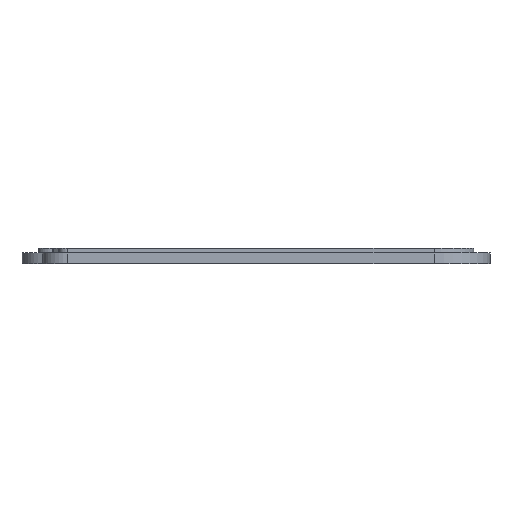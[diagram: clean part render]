
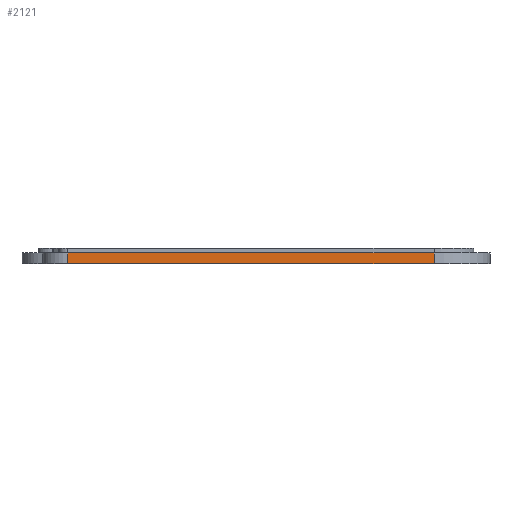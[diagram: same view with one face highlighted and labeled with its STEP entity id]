
A CAD part, left-side view. The second image highlights one B-rep face of the part: STEP entity #2121.
In plain terms, the highlighted planar face has unit normal (-1, 0, 0).
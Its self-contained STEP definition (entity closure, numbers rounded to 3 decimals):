
#44 = CYLINDRICAL_SURFACE('',#45,5.);
#45 = AXIS2_PLACEMENT_3D('',#46,#47,#48);
#46 = CARTESIAN_POINT('',(0.5,52.,0.));
#47 = DIRECTION('',(-0.,-0.,-1.));
#48 = DIRECTION('',(1.,0.,0.));
#72 = PLANE('',#73);
#73 = AXIS2_PLACEMENT_3D('',#74,#75,#76);
#74 = CARTESIAN_POINT('',(100.,14.825,2.1));
#75 = DIRECTION('',(0.,0.,1.));
#76 = DIRECTION('',(1.,0.,0.));
#126 = PLANE('',#127);
#127 = AXIS2_PLACEMENT_3D('',#128,#129,#130);
#128 = CARTESIAN_POINT('',(100.,14.825,0.));
#129 = DIRECTION('',(0.,0.,1.));
#130 = DIRECTION('',(1.,0.,0.));
#143 = VERTEX_POINT('',#144);
#144 = CARTESIAN_POINT('',(-4.5,52.,2.1));
#166 = EDGE_CURVE('',#167,#143,#169,.T.);
#167 = VERTEX_POINT('',#168);
#168 = CARTESIAN_POINT('',(-4.5,52.,0.));
#169 = SURFACE_CURVE('',#170,(#174,#181),.PCURVE_S1.);
#170 = LINE('',#171,#172);
#171 = CARTESIAN_POINT('',(-4.5,52.,0.));
#172 = VECTOR('',#173,1.);
#173 = DIRECTION('',(0.,0.,1.));
#174 = PCURVE('',#44,#175);
#175 = DEFINITIONAL_REPRESENTATION('',(#176),#180);
#176 = LINE('',#177,#178);
#177 = CARTESIAN_POINT('',(-3.142,0.));
#178 = VECTOR('',#179,1.);
#179 = DIRECTION('',(-0.,-1.));
#180 = ( GEOMETRIC_REPRESENTATION_CONTEXT(2) 
PARAMETRIC_REPRESENTATION_CONTEXT() REPRESENTATION_CONTEXT('2D SPACE',''
  ) );
#181 = PCURVE('',#182,#187);
#182 = PLANE('',#183);
#183 = AXIS2_PLACEMENT_3D('',#184,#185,#186);
#184 = CARTESIAN_POINT('',(-4.5,52.,0.));
#185 = DIRECTION('',(1.,0.,0.));
#186 = DIRECTION('',(0.,-1.,0.));
#187 = DEFINITIONAL_REPRESENTATION('',(#188),#192);
#188 = LINE('',#189,#190);
#189 = CARTESIAN_POINT('',(0.,0.));
#190 = VECTOR('',#191,1.);
#191 = DIRECTION('',(0.,-1.));
#192 = ( GEOMETRIC_REPRESENTATION_CONTEXT(2) 
PARAMETRIC_REPRESENTATION_CONTEXT() REPRESENTATION_CONTEXT('2D SPACE',''
  ) );
#299 = EDGE_CURVE('',#167,#300,#302,.T.);
#300 = VERTEX_POINT('',#301);
#301 = CARTESIAN_POINT('',(-4.5,-20.,0.));
#302 = SURFACE_CURVE('',#303,(#307,#314),.PCURVE_S1.);
#303 = LINE('',#304,#305);
#304 = CARTESIAN_POINT('',(-4.5,52.,0.));
#305 = VECTOR('',#306,1.);
#306 = DIRECTION('',(0.,-1.,0.));
#307 = PCURVE('',#126,#308);
#308 = DEFINITIONAL_REPRESENTATION('',(#309),#313);
#309 = LINE('',#310,#311);
#310 = CARTESIAN_POINT('',(-104.5,37.175));
#311 = VECTOR('',#312,1.);
#312 = DIRECTION('',(0.,-1.));
#313 = ( GEOMETRIC_REPRESENTATION_CONTEXT(2) 
PARAMETRIC_REPRESENTATION_CONTEXT() REPRESENTATION_CONTEXT('2D SPACE',''
  ) );
#314 = PCURVE('',#182,#315);
#315 = DEFINITIONAL_REPRESENTATION('',(#316),#320);
#316 = LINE('',#317,#318);
#317 = CARTESIAN_POINT('',(0.,0.));
#318 = VECTOR('',#319,1.);
#319 = DIRECTION('',(1.,0.));
#320 = ( GEOMETRIC_REPRESENTATION_CONTEXT(2) 
PARAMETRIC_REPRESENTATION_CONTEXT() REPRESENTATION_CONTEXT('2D SPACE',''
  ) );
#339 = CYLINDRICAL_SURFACE('',#340,11.);
#340 = AXIS2_PLACEMENT_3D('',#341,#342,#343);
#341 = CARTESIAN_POINT('',(6.5,-20.,0.));
#342 = DIRECTION('',(-0.,-0.,-1.));
#343 = DIRECTION('',(1.,0.,0.));
#1034 = EDGE_CURVE('',#143,#1035,#1037,.T.);
#1035 = VERTEX_POINT('',#1036);
#1036 = CARTESIAN_POINT('',(-4.5,-20.,2.1));
#1037 = SURFACE_CURVE('',#1038,(#1042,#1049),.PCURVE_S1.);
#1038 = LINE('',#1039,#1040);
#1039 = CARTESIAN_POINT('',(-4.5,52.,2.1));
#1040 = VECTOR('',#1041,1.);
#1041 = DIRECTION('',(0.,-1.,0.));
#1042 = PCURVE('',#72,#1043);
#1043 = DEFINITIONAL_REPRESENTATION('',(#1044),#1048);
#1044 = LINE('',#1045,#1046);
#1045 = CARTESIAN_POINT('',(-104.5,37.175));
#1046 = VECTOR('',#1047,1.);
#1047 = DIRECTION('',(0.,-1.));
#1048 = ( GEOMETRIC_REPRESENTATION_CONTEXT(2) 
PARAMETRIC_REPRESENTATION_CONTEXT() REPRESENTATION_CONTEXT('2D SPACE',''
  ) );
#1049 = PCURVE('',#182,#1050);
#1050 = DEFINITIONAL_REPRESENTATION('',(#1051),#1055);
#1051 = LINE('',#1052,#1053);
#1052 = CARTESIAN_POINT('',(0.,-2.1));
#1053 = VECTOR('',#1054,1.);
#1054 = DIRECTION('',(1.,0.));
#1055 = ( GEOMETRIC_REPRESENTATION_CONTEXT(2) 
PARAMETRIC_REPRESENTATION_CONTEXT() REPRESENTATION_CONTEXT('2D SPACE',''
  ) );
#2121 = ADVANCED_FACE('',(#2122),#182,.F.);
#2122 = FACE_BOUND('',#2123,.F.);
#2123 = EDGE_LOOP('',(#2124,#2125,#2126,#2147));
#2124 = ORIENTED_EDGE('',*,*,#166,.T.);
#2125 = ORIENTED_EDGE('',*,*,#1034,.T.);
#2126 = ORIENTED_EDGE('',*,*,#2127,.F.);
#2127 = EDGE_CURVE('',#300,#1035,#2128,.T.);
#2128 = SURFACE_CURVE('',#2129,(#2133,#2140),.PCURVE_S1.);
#2129 = LINE('',#2130,#2131);
#2130 = CARTESIAN_POINT('',(-4.5,-20.,0.));
#2131 = VECTOR('',#2132,1.);
#2132 = DIRECTION('',(0.,0.,1.));
#2133 = PCURVE('',#182,#2134);
#2134 = DEFINITIONAL_REPRESENTATION('',(#2135),#2139);
#2135 = LINE('',#2136,#2137);
#2136 = CARTESIAN_POINT('',(72.,0.));
#2137 = VECTOR('',#2138,1.);
#2138 = DIRECTION('',(0.,-1.));
#2139 = ( GEOMETRIC_REPRESENTATION_CONTEXT(2) 
PARAMETRIC_REPRESENTATION_CONTEXT() REPRESENTATION_CONTEXT('2D SPACE',''
  ) );
#2140 = PCURVE('',#339,#2141);
#2141 = DEFINITIONAL_REPRESENTATION('',(#2142),#2146);
#2142 = LINE('',#2143,#2144);
#2143 = CARTESIAN_POINT('',(-3.142,0.));
#2144 = VECTOR('',#2145,1.);
#2145 = DIRECTION('',(-0.,-1.));
#2146 = ( GEOMETRIC_REPRESENTATION_CONTEXT(2) 
PARAMETRIC_REPRESENTATION_CONTEXT() REPRESENTATION_CONTEXT('2D SPACE',''
  ) );
#2147 = ORIENTED_EDGE('',*,*,#299,.F.);
